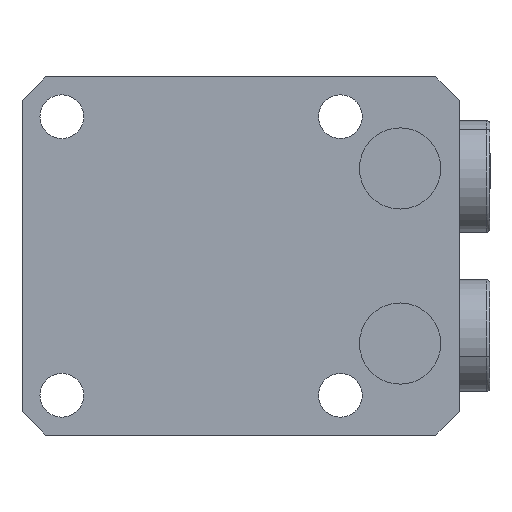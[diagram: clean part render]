
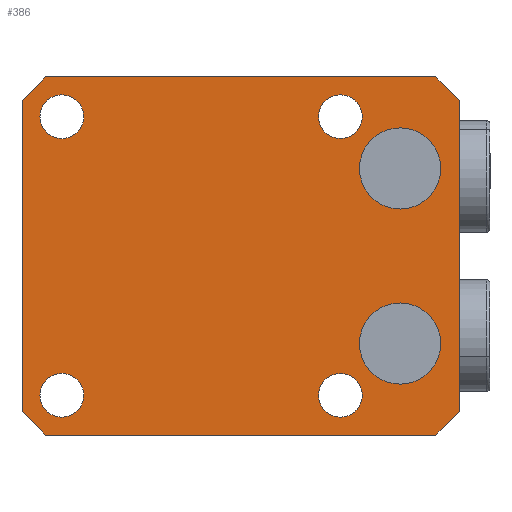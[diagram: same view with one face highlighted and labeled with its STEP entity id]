
A CAD part, front view. The second image highlights one B-rep face of the part: STEP entity #386.
In plain terms, the highlighted planar face has unit normal (0, -1, 0).
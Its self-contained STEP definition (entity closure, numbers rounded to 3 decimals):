
#149=FACE_BOUND('',#967,.T.);
#150=FACE_BOUND('',#968,.T.);
#151=FACE_BOUND('',#969,.T.);
#152=FACE_BOUND('',#970,.T.);
#153=FACE_BOUND('',#971,.T.);
#154=FACE_BOUND('',#972,.T.);
#155=FACE_BOUND('',#973,.T.);
#205=PLANE('',#4535);
#386=ADVANCED_FACE('',(#149,#150,#151,#152,#153,#154,#155),#205,.T.);
#967=EDGE_LOOP('',(#2082,#2083));
#968=EDGE_LOOP('',(#2084,#2085));
#969=EDGE_LOOP('',(#2086,#2087,#2088,#2089,#2090,#2091,#2092,#2093));
#970=EDGE_LOOP('',(#2094,#2095));
#971=EDGE_LOOP('',(#2096,#2097));
#972=EDGE_LOOP('',(#2098,#2099));
#973=EDGE_LOOP('',(#2100,#2101));
#1278=LINE('',#6561,#1628);
#1282=LINE('',#6581,#1632);
#1290=LINE('',#6607,#1640);
#1295=LINE('',#6625,#1645);
#1301=LINE('',#6648,#1651);
#1302=LINE('',#6649,#1652);
#1303=LINE('',#6650,#1653);
#1304=LINE('',#6651,#1654);
#1628=VECTOR('',#5151,1.);
#1632=VECTOR('',#5181,1.);
#1640=VECTOR('',#5191,1.);
#1645=VECTOR('',#5198,1.);
#1651=VECTOR('',#5210,1.);
#1652=VECTOR('',#5211,1.);
#1653=VECTOR('',#5212,1.);
#1654=VECTOR('',#5213,1.);
#2082=ORIENTED_EDGE('',*,*,#3716,.F.);
#2083=ORIENTED_EDGE('',*,*,#3590,.F.);
#2084=ORIENTED_EDGE('',*,*,#3717,.F.);
#2085=ORIENTED_EDGE('',*,*,#3594,.F.);
#2086=ORIENTED_EDGE('',*,*,#3718,.T.);
#2087=ORIENTED_EDGE('',*,*,#3680,.F.);
#2088=ORIENTED_EDGE('',*,*,#3719,.T.);
#2089=ORIENTED_EDGE('',*,*,#3692,.F.);
#2090=ORIENTED_EDGE('',*,*,#3720,.T.);
#2091=ORIENTED_EDGE('',*,*,#3702,.F.);
#2092=ORIENTED_EDGE('',*,*,#3721,.T.);
#2093=ORIENTED_EDGE('',*,*,#3708,.F.);
#2094=ORIENTED_EDGE('',*,*,#3690,.T.);
#2095=ORIENTED_EDGE('',*,*,#3628,.T.);
#2096=ORIENTED_EDGE('',*,*,#3686,.T.);
#2097=ORIENTED_EDGE('',*,*,#3636,.T.);
#2098=ORIENTED_EDGE('',*,*,#3684,.T.);
#2099=ORIENTED_EDGE('',*,*,#3640,.T.);
#2100=ORIENTED_EDGE('',*,*,#3688,.T.);
#2101=ORIENTED_EDGE('',*,*,#3632,.T.);
#3180=VERTEX_POINT('',#6358);
#3181=VERTEX_POINT('',#6360);
#3184=VERTEX_POINT('',#6367);
#3185=VERTEX_POINT('',#6369);
#3214=VERTEX_POINT('',#6447);
#3215=VERTEX_POINT('',#6448);
#3218=VERTEX_POINT('',#6456);
#3219=VERTEX_POINT('',#6457);
#3222=VERTEX_POINT('',#6465);
#3223=VERTEX_POINT('',#6466);
#3226=VERTEX_POINT('',#6474);
#3227=VERTEX_POINT('',#6475);
#3260=VERTEX_POINT('',#6560);
#3261=VERTEX_POINT('',#6562);
#3264=VERTEX_POINT('',#6582);
#3265=VERTEX_POINT('',#6583);
#3273=VERTEX_POINT('',#6608);
#3274=VERTEX_POINT('',#6609);
#3279=VERTEX_POINT('',#6624);
#3280=VERTEX_POINT('',#6626);
#3590=EDGE_CURVE('',#3180,#3181,#4215,.T.);
#3594=EDGE_CURVE('',#3184,#3185,#4217,.T.);
#3628=EDGE_CURVE('',#3214,#3215,#4231,.T.);
#3632=EDGE_CURVE('',#3218,#3219,#4233,.T.);
#3636=EDGE_CURVE('',#3222,#3223,#4235,.T.);
#3640=EDGE_CURVE('',#3226,#3227,#4237,.T.);
#3680=EDGE_CURVE('',#3260,#3261,#1278,.T.);
#3684=EDGE_CURVE('',#3227,#3226,#4239,.T.);
#3686=EDGE_CURVE('',#3223,#3222,#4241,.T.);
#3688=EDGE_CURVE('',#3219,#3218,#4243,.T.);
#3690=EDGE_CURVE('',#3215,#3214,#4245,.T.);
#3692=EDGE_CURVE('',#3264,#3265,#1282,.T.);
#3702=EDGE_CURVE('',#3273,#3274,#1290,.T.);
#3708=EDGE_CURVE('',#3279,#3280,#1295,.T.);
#3716=EDGE_CURVE('',#3181,#3180,#4247,.T.);
#3717=EDGE_CURVE('',#3185,#3184,#4248,.T.);
#3718=EDGE_CURVE('',#3279,#3261,#1301,.T.);
#3719=EDGE_CURVE('',#3260,#3265,#1302,.T.);
#3720=EDGE_CURVE('',#3264,#3274,#1303,.T.);
#3721=EDGE_CURVE('',#3273,#3280,#1304,.T.);
#4215=CIRCLE('',#4472,5.1);
#4217=CIRCLE('',#4475,5.1);
#4231=CIRCLE('',#4499,2.75);
#4233=CIRCLE('',#4502,2.75);
#4235=CIRCLE('',#4505,2.75);
#4237=CIRCLE('',#4508,2.75);
#4239=CIRCLE('',#4518,2.75);
#4241=CIRCLE('',#4521,2.75);
#4243=CIRCLE('',#4524,2.75);
#4245=CIRCLE('',#4527,2.75);
#4247=CIRCLE('',#4533,5.1);
#4248=CIRCLE('',#4534,5.1);
#4472=AXIS2_PLACEMENT_3D('',#6359,#4998,#4999);
#4475=AXIS2_PLACEMENT_3D('',#6368,#5006,#5007);
#4499=AXIS2_PLACEMENT_3D('',#6446,#5073,#5074);
#4502=AXIS2_PLACEMENT_3D('',#6455,#5081,#5082);
#4505=AXIS2_PLACEMENT_3D('',#6464,#5089,#5090);
#4508=AXIS2_PLACEMENT_3D('',#6473,#5097,#5098);
#4518=AXIS2_PLACEMENT_3D('',#6569,#5157,#5158);
#4521=AXIS2_PLACEMENT_3D('',#6572,#5163,#5164);
#4524=AXIS2_PLACEMENT_3D('',#6575,#5169,#5170);
#4527=AXIS2_PLACEMENT_3D('',#6578,#5175,#5176);
#4533=AXIS2_PLACEMENT_3D('',#6646,#5206,#5207);
#4534=AXIS2_PLACEMENT_3D('',#6647,#5208,#5209);
#4535=AXIS2_PLACEMENT_3D('',#6652,#5214,#5215);
#4998=DIRECTION('',(0.,-1.,0.));
#4999=DIRECTION('',(0.,0.,-1.));
#5006=DIRECTION('',(0.,-1.,0.));
#5007=DIRECTION('',(0.,0.,-1.));
#5073=DIRECTION('',(0.,1.,0.));
#5074=DIRECTION('',(0.,0.,-1.));
#5081=DIRECTION('',(0.,1.,0.));
#5082=DIRECTION('',(0.,0.,-1.));
#5089=DIRECTION('',(0.,1.,0.));
#5090=DIRECTION('',(0.,0.,-1.));
#5097=DIRECTION('',(0.,1.,0.));
#5098=DIRECTION('',(0.,0.,-1.));
#5151=DIRECTION('',(0.,0.,-1.));
#5157=DIRECTION('',(0.,1.,0.));
#5158=DIRECTION('',(0.,0.,-1.));
#5163=DIRECTION('',(0.,1.,0.));
#5164=DIRECTION('',(0.,0.,-1.));
#5169=DIRECTION('',(0.,1.,0.));
#5170=DIRECTION('',(0.,0.,-1.));
#5175=DIRECTION('',(0.,1.,0.));
#5176=DIRECTION('',(0.,0.,-1.));
#5181=DIRECTION('',(1.,0.,0.));
#5191=DIRECTION('',(0.,0.,1.));
#5198=DIRECTION('',(-1.,0.,0.));
#5206=DIRECTION('',(0.,-1.,0.));
#5207=DIRECTION('',(0.,0.,-1.));
#5208=DIRECTION('',(0.,-1.,0.));
#5209=DIRECTION('',(0.,0.,-1.));
#5210=DIRECTION('',(0.707,0.,0.707));
#5211=DIRECTION('',(-0.707,0.,0.707));
#5212=DIRECTION('',(-0.707,0.,-0.707));
#5213=DIRECTION('',(0.707,0.,-0.707));
#5214=DIRECTION('',(0.,-1.,0.));
#5215=DIRECTION('',(0.,0.,-1.));
#6358=CARTESIAN_POINT('',(-25.,-60.,-5.9));
#6359=CARTESIAN_POINT('',(-25.,-60.,-11.));
#6360=CARTESIAN_POINT('',(-25.,-60.,-16.1));
#6367=CARTESIAN_POINT('',(-25.,-60.,16.1));
#6368=CARTESIAN_POINT('',(-25.,-60.,11.));
#6369=CARTESIAN_POINT('',(-25.,-60.,5.9));
#6446=CARTESIAN_POINT('',(-17.5,-60.,-17.5));
#6447=CARTESIAN_POINT('',(-17.5,-60.,-20.25));
#6448=CARTESIAN_POINT('',(-17.5,-60.,-14.75));
#6455=CARTESIAN_POINT('',(17.5,-60.,17.5));
#6456=CARTESIAN_POINT('',(17.5,-60.,14.75));
#6457=CARTESIAN_POINT('',(17.5,-60.,20.25));
#6464=CARTESIAN_POINT('',(-17.5,-60.,17.5));
#6465=CARTESIAN_POINT('',(-17.5,-60.,14.75));
#6466=CARTESIAN_POINT('',(-17.5,-60.,20.25));
#6473=CARTESIAN_POINT('',(17.5,-60.,-17.5));
#6474=CARTESIAN_POINT('',(17.5,-60.,-20.25));
#6475=CARTESIAN_POINT('',(17.5,-60.,-14.75));
#6560=CARTESIAN_POINT('',(22.5,-60.,19.5));
#6561=CARTESIAN_POINT('',(22.5,-60.,-22.5));
#6562=CARTESIAN_POINT('',(22.5,-60.,-19.5));
#6569=CARTESIAN_POINT('',(17.5,-60.,-17.5));
#6572=CARTESIAN_POINT('',(-17.5,-60.,17.5));
#6575=CARTESIAN_POINT('',(17.5,-60.,17.5));
#6578=CARTESIAN_POINT('',(-17.5,-60.,-17.5));
#6581=CARTESIAN_POINT('',(22.5,-60.,22.5));
#6582=CARTESIAN_POINT('',(-29.5,-60.,22.5));
#6583=CARTESIAN_POINT('',(19.5,-60.,22.5));
#6607=CARTESIAN_POINT('',(-32.5,-60.,22.5));
#6608=CARTESIAN_POINT('',(-32.5,-60.,-19.5));
#6609=CARTESIAN_POINT('',(-32.5,-60.,19.5));
#6624=CARTESIAN_POINT('',(19.5,-60.,-22.5));
#6625=CARTESIAN_POINT('',(22.5,-60.,-22.5));
#6626=CARTESIAN_POINT('',(-29.5,-60.,-22.5));
#6646=CARTESIAN_POINT('',(-25.,-60.,-11.));
#6647=CARTESIAN_POINT('',(-25.,-60.,11.));
#6648=CARTESIAN_POINT('',(21.,-60.,-21.));
#6649=CARTESIAN_POINT('',(43.5,-60.,-1.5));
#6650=CARTESIAN_POINT('',(-26.,-60.,26.));
#6651=CARTESIAN_POINT('',(-3.5,-60.,-48.5));
#6652=CARTESIAN_POINT('',(22.5,-60.,-22.5));
